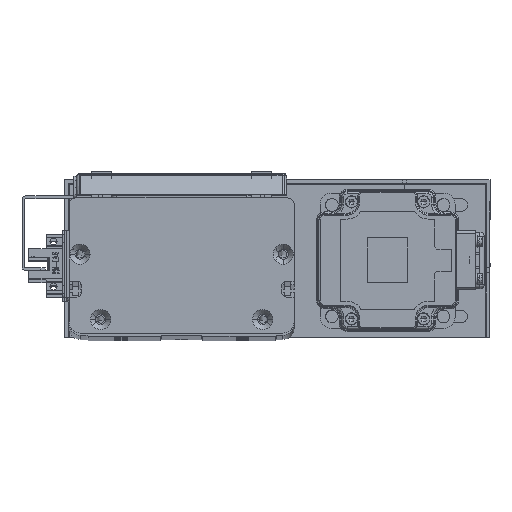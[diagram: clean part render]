
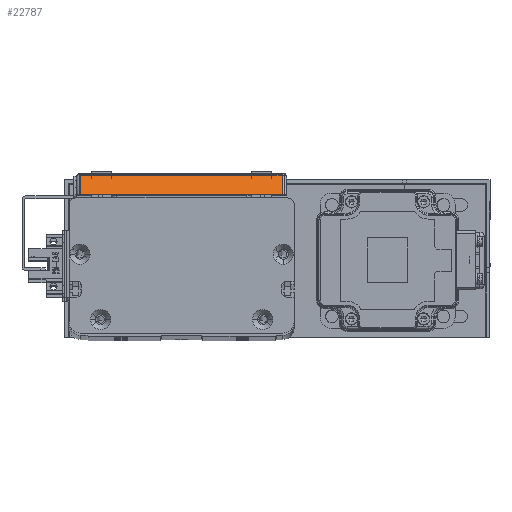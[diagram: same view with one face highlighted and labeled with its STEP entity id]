
A CAD part, top view. The second image highlights one B-rep face of the part: STEP entity #22787.
In plain terms, the highlighted planar face has unit normal (0, 0.707, 0.707) as drawn and (-0.707, 0, -0.707) by its records, which use the part's own axes.
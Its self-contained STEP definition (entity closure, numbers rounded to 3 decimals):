
#101 = EDGE_CURVE ( 'NONE', #66753, #64679, #68185, .T. ) ;
#640 = ORIENTED_EDGE ( 'NONE', *, *, #66272, .T. ) ;
#1377 = LINE ( 'NONE', #44276, #21874 ) ;
#4498 = CARTESIAN_POINT ( 'NONE',  ( -66.5, 93.4, 4.1 ) ) ;
#6703 = EDGE_CURVE ( 'NONE', #7941, #9571, #49944, .T. ) ;
#7483 = PLANE ( 'NONE',  #34009 ) ;
#7941 = VERTEX_POINT ( 'NONE', #49902 ) ;
#9571 = VERTEX_POINT ( 'NONE', #61338 ) ;
#10008 = DIRECTION ( 'NONE',  ( 0., 1., 0. ) ) ;
#10830 = EDGE_CURVE ( 'NONE', #64679, #7941, #1377, .T. ) ;
#11925 = DIRECTION ( 'NONE',  ( 0.707, 0., -0.707 ) ) ;
#16235 = EDGE_LOOP ( 'NONE', ( #640, #55055, #38891, #24092 ) ) ;
#20286 = CARTESIAN_POINT ( 'NONE',  ( -57.298, 93.4, -5.102 ) ) ;
#20833 = VECTOR ( 'NONE', #42113, 1000. ) ;
#21874 = VECTOR ( 'NONE', #11925, 1000. ) ;
#22787 = ADVANCED_FACE ( 'NONE', ( #45312 ), #7483, .T. ) ;
#24092 = ORIENTED_EDGE ( 'NONE', *, *, #6703, .T. ) ;
#29737 = DIRECTION ( 'NONE',  ( -0.707, 0., 0.707 ) ) ;
#33662 = CARTESIAN_POINT ( 'NONE',  ( -66.5, 1.7, 4.1 ) ) ;
#34009 = AXIS2_PLACEMENT_3D ( 'NONE', #56013, #56718, #62193 ) ;
#37536 = VECTOR ( 'NONE', #29737, 1000. ) ;
#37600 = LINE ( 'NONE', #62421, #37536 ) ;
#38891 = ORIENTED_EDGE ( 'NONE', *, *, #10830, .T. ) ;
#42113 = DIRECTION ( 'NONE',  ( 0., -1., 0. ) ) ;
#44276 = CARTESIAN_POINT ( 'NONE',  ( -68., 91.7, 5.6 ) ) ;
#45312 = FACE_OUTER_BOUND ( 'NONE', #16235, .T. ) ;
#49902 = CARTESIAN_POINT ( 'NONE',  ( -57.298, 91.7, -5.102 ) ) ;
#49944 = LINE ( 'NONE', #20286, #20833 ) ;
#55055 = ORIENTED_EDGE ( 'NONE', *, *, #101, .T. ) ;
#56013 = CARTESIAN_POINT ( 'NONE',  ( -68., 93.4, 5.6 ) ) ;
#56264 = VECTOR ( 'NONE', #10008, 1000. ) ;
#56718 = DIRECTION ( 'NONE',  ( -0.707, 0., -0.707 ) ) ;
#61338 = CARTESIAN_POINT ( 'NONE',  ( -57.298, 1.7, -5.102 ) ) ;
#62193 = DIRECTION ( 'NONE',  ( -0.707, 0., 0.707 ) ) ;
#62421 = CARTESIAN_POINT ( 'NONE',  ( -68., 1.7, 5.6 ) ) ;
#64443 = CARTESIAN_POINT ( 'NONE',  ( -66.5, 91.7, 4.1 ) ) ;
#64679 = VERTEX_POINT ( 'NONE', #64443 ) ;
#66272 = EDGE_CURVE ( 'NONE', #9571, #66753, #37600, .T. ) ;
#66753 = VERTEX_POINT ( 'NONE', #33662 ) ;
#68185 = LINE ( 'NONE', #4498, #56264 ) ;
